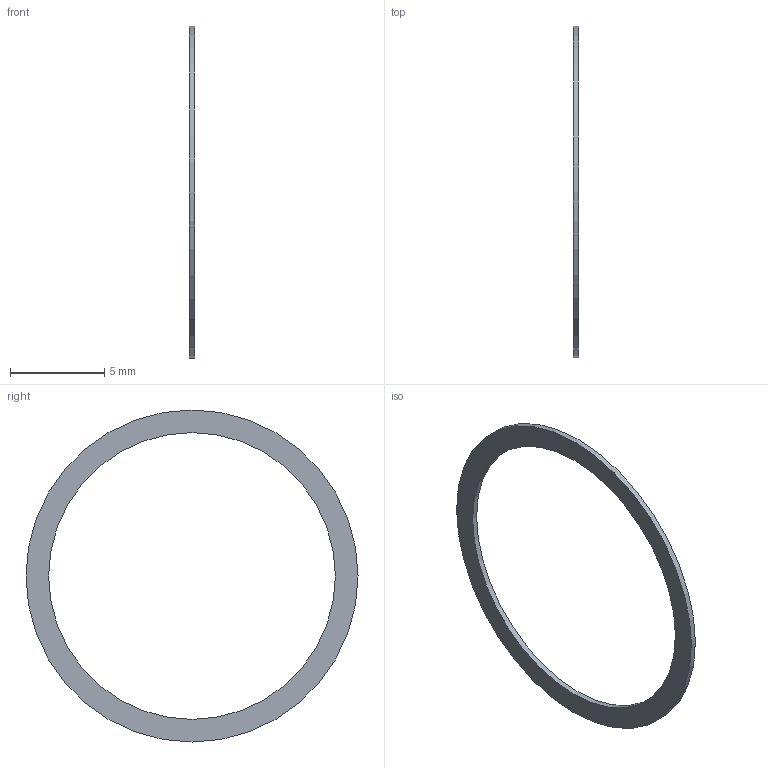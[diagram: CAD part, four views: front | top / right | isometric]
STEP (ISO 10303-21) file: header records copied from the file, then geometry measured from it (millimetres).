
FILE_DESCRIPTION(('Open CASCADE Model'),'2;1');
FILE_NAME('Open CASCADE Shape Model','2026-10-31T23:30:59',('Author'),( 'Open CASCADE'),'Open CASCADE STEP processor 7.9','Open CASCADE 7.9' ,'Unknown');
FILE_SCHEMA(('AUTOMOTIVE_DESIGN { 1 0 10303 214 1 1 1 1 }'));
Length unit declared in the file: millimetre
Products named in the file (1): Open CASCADE STEP translator 7.9 8
Bounding box: 0.3 x 17.6 x 17.6 mm (x, y, z)
Volume: 18.5 mm3; surface area: 154.6 mm2
Topology: 1 solids, 1 shells, 4 faces, 6 edges, 4 vertices
Faces by surface type: cylinder 2, plane 2
Full cylindrical faces by diameter (mm): 15.2 x1, 17.6 x1
Entity records: 186 total; most frequent: DIRECTION 32, CARTESIAN_POINT 27, ORIENTED_EDGE 12, PCURVE 12, DEFINITIONAL_REPRESENTATION 12, LINE 10, VECTOR 10, AXIS2_PLACEMENT_3D 9
